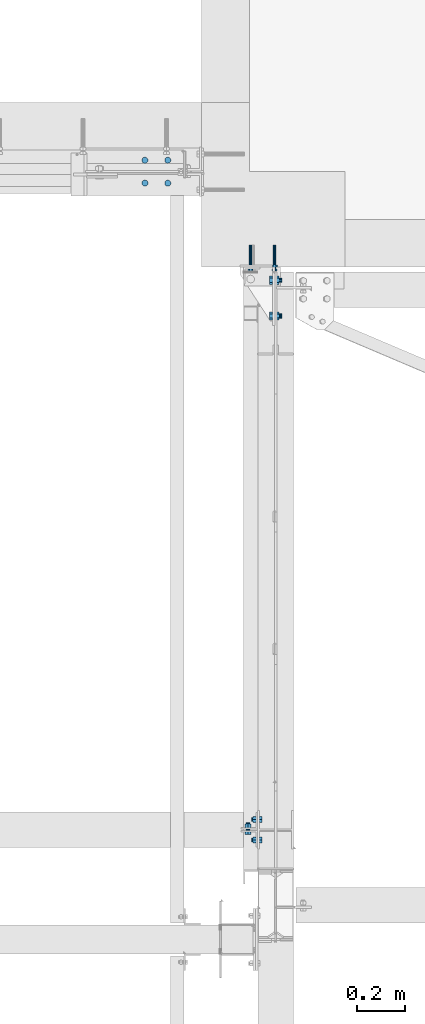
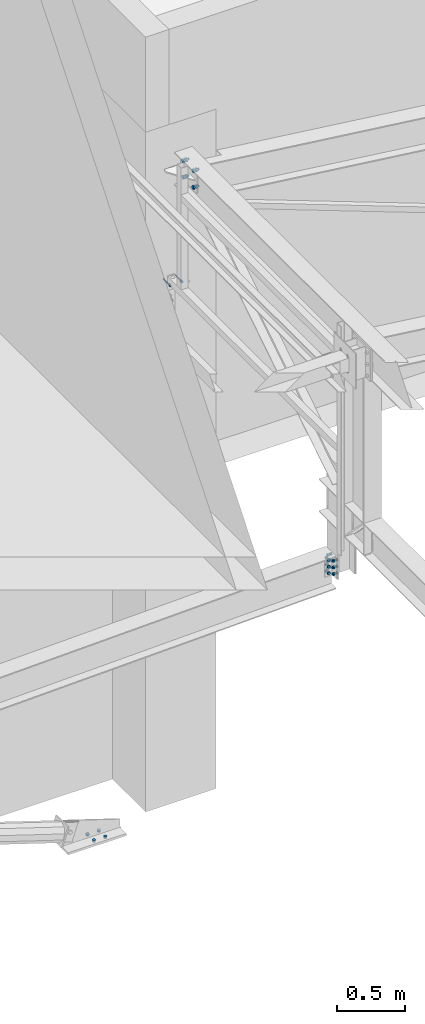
# One storey, part 221 of 3134: 6 mechanical fasteners, 5 elements without a shape of their own.
"""IFC2X3 building model written with IfcOpenShell, lengths in millimetres."""

from ifc_helpers import new_model, si_unit, frame, origin_with_axes, place, context, subcontext, project, spatial, faceted_brep, source, transform, mapped, material, type_object, element, aggregate, save


model = new_model("IFC2X3")

# Units and contexts
model_context = context("Model", 3, precision=1e-05, world=origin_with_axes())
body_context = subcontext(model_context, "Body", "Model", "MODEL_VIEW")
ifc_project = project(units=[si_unit("LENGTHUNIT", "METRE", prefix="MILLI"), si_unit("AREAUNIT", "SQUARE_METRE"), si_unit("VOLUMEUNIT", "CUBIC_METRE"), si_unit("MASSUNIT", "GRAM", prefix="KILO"), si_unit("TIMEUNIT", "SECOND"), si_unit("PLANEANGLEUNIT", "RADIAN"), si_unit("SOLIDANGLEUNIT", "STERADIAN"), si_unit("THERMODYNAMICTEMPERATUREUNIT", "DEGREE_CELSIUS"), si_unit("LUMINOUSINTENSITYUNIT", "LUMEN")], contexts=[model_context])

# Site, building, storey
site_placement = place(None, origin_with_axes())
site = spatial("IfcSite", under=ifc_project, at=site_placement, CompositionType="ELEMENT")
building_placement = place(site_placement, origin_with_axes())
building = spatial("IfcBuilding", under=site, at=building_placement, Name="Undefined", CompositionType="ELEMENT")
storey_placement = place(building_placement, origin_with_axes())
storey = spatial("IfcBuildingStorey", under=building, at=storey_placement, Name="Undefined", CompositionType="ELEMENT", Elevation=0.0)

# Assembly, mechanical fastener
assembly_1_placement = place(storey_placement, origin_with_axes())
assembly_1 = element("IfcElementAssembly", 1, at=assembly_1_placement, inside=storey, AssemblyPlace="NOTDEFINED", PredefinedType="RIGID_FRAME")
ifc_material_1 = material(Name="HILTI-HSA")
mechanical_fastener_type = type_object("IfcMechanicalFastenerType", Name="Bolt assembly")
shared_shape_1 = source(origin_with_axes(), body_context, "Body", "Brep", [
    faceted_brep([(10.3923048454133, -15.92, 0.0), (5.19615242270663, -15.92, 9.0), (-5.19615242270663, -15.92, 9.0), (-10.3923048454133, -15.92, 1.27269028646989e-15), (-5.19615242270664, -15.92, -9.0), (5.19615242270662, -15.92, -9.0), (5.19615242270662, -8.0, -9.0), (-5.19615242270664, -8.0, -9.0), (-10.3923048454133, -8.0, 1.27269028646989e-15), (-5.19615242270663, -8.0, 9.0), (5.19615242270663, -8.0, 9.0), (10.3923048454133, -8.0, 0.0), (6.0, -8.0, 0.0), (5.19615242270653, -8.0, 3.00000000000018), (2.99999999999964, -8.0, 5.19615242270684), (-6.21801588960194e-13, -8.0, 6.0), (-3.00000000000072, -8.0, 5.19615242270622), (-5.19615242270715, -8.0, 2.9999999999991), (-6.0, -8.0, -1.24360317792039e-12), (-5.19615242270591, -8.0, -3.00000000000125), (-2.99999999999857, -8.0, -5.19615242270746), (1.85874342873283e-12, -8.0, -6.0), (3.00000000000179, -8.0, -5.1961524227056), (5.19615242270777, -8.0, -2.99999999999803), (5.19615242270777, 92.0, -2.99999999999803), (3.00000000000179, 92.0, -5.1961524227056), (1.85874342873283e-12, 92.0, -6.0), (-2.99999999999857, 92.0, -5.19615242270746), (-5.19615242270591, 92.0, -3.00000000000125), (-6.0, 92.0, -1.24360317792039e-12), (-5.19615242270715, 92.0, 2.9999999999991), (-3.00000000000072, 92.0, 5.19615242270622), (-6.21801588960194e-13, 92.0, 6.0), (2.99999999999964, 92.0, 5.19615242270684), (5.19615242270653, 92.0, 3.00000000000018), (6.0, 92.0, 0.0), (11.5008173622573, 0.0, 0.0), (5.75040868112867, 0.0, 9.96), (-5.75040868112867, 0.0, 9.96), (-11.5008173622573, 0.0, 1.40844391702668e-15), (-5.75040868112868, 0.0, -9.96), (5.75040868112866, 0.0, -9.96), (5.75040868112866, 7.92, -9.96), (-5.75040868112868, 7.92, -9.96), (-11.5008173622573, 7.92, 1.40844391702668e-15), (-5.75040868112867, 7.92, 9.96), (5.75040868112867, 7.92, 9.96), (11.5008173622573, 7.92, 0.0)], [[[0, 1, 2, 3, 4, 5]], [[6, 7, 8, 9, 10, 11]], [[0, 11, 10, 1]], [[1, 10, 9, 2]], [[2, 9, 8, 3]], [[3, 8, 7, 4]], [[4, 7, 6, 5]], [[5, 6, 11, 0]], [[12, 13, 14, 15, 16, 17, 18, 19, 20, 21, 22, 23]], [[24, 25, 26, 27, 28, 29, 30, 31, 32, 33, 34, 35]], [[12, 35, 34, 13]], [[13, 34, 33, 14]], [[14, 33, 32, 15]], [[15, 32, 31, 16]], [[16, 31, 30, 17]], [[17, 30, 29, 18]], [[18, 29, 28, 19]], [[19, 28, 27, 20]], [[20, 27, 26, 21]], [[21, 26, 25, 22]], [[22, 25, 24, 23]], [[23, 24, 35, 12]], [[36, 37, 38, 39, 40, 41]], [[42, 43, 44, 45, 46, 47]], [[36, 47, 46, 37]], [[37, 46, 45, 38]], [[38, 45, 44, 39]], [[39, 44, 43, 40]], [[40, 43, 42, 41]], [[41, 42, 47, 36]]]),
    faceted_brep([(7.0, -8.0, 0.0), (6.06217782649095, -8.0, 3.50000000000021), (3.49999999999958, -8.0, 6.06217782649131), (-7.25435187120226e-13, -8.0, 7.0), (-3.50000000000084, -8.0, 6.06217782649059), (-6.06217782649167, -8.0, 3.49999999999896), (-7.0, -8.0, -1.45087037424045e-12), (-6.06217782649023, -8.0, -3.50000000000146), (-3.49999999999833, -8.0, -6.06217782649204), (2.1685340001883e-12, -8.0, -7.0), (3.50000000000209, -8.0, -6.06217782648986), (6.0621778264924, -8.0, -3.4999999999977), (6.0621778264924, 0.0999999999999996, -3.4999999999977), (3.50000000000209, 0.0999999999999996, -6.06217782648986), (2.1685340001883e-12, 0.0999999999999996, -7.0), (-3.49999999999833, 0.0999999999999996, -6.06217782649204), (-6.06217782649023, 0.0999999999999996, -3.50000000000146), (-7.0, 0.0999999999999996, -1.45087037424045e-12), (-6.06217782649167, 0.0999999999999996, 3.49999999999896), (-3.50000000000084, 0.0999999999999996, 6.06217782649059), (-7.25435187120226e-13, 0.0999999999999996, 7.0), (3.49999999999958, 0.0999999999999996, 6.06217782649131), (6.06217782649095, 0.0999999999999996, 3.50000000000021), (7.0, 0.0999999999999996, 0.0)], [[[0, 1, 2, 3, 4, 5, 6, 7, 8, 9, 10, 11]], [[12, 13, 14, 15, 16, 17, 18, 19, 20, 21, 22, 23]], [[0, 23, 22, 1]], [[1, 22, 21, 2]], [[2, 21, 20, 3]], [[3, 20, 19, 4]], [[4, 19, 18, 5]], [[5, 18, 17, 6]], [[6, 17, 16, 7]], [[7, 16, 15, 8]], [[8, 15, 14, 9]], [[9, 14, 13, 10]], [[10, 13, 12, 11]], [[11, 12, 23, 0]]]),
])
mechanical_fastener_1_placement = place(assembly_1_placement, frame((20745.0000000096, 48125.0, 4690.0), z_axis=(0.0, 0.0, 1.0), x_axis=(1.0, 0.0, 0.0)))
mechanical_fastener_1 = element("IfcMechanicalFastener", 2, at=mechanical_fastener_1_placement, type_object=mechanical_fastener_type, material=ifc_material_1, Name="Bolt assembly", NominalDiameter=12.0, NominalLength=100.0, context=body_context, shape_type="MappedRepresentation", body=[
    mapped(shared_shape_1, transform((0.0, 0.0, 0.0))),
    mapped(shared_shape_1, transform((100.0, 0.0, 0.0))),
])
aggregate(assembly_1, [mechanical_fastener_1])

assembly_2_placement = place(storey_placement, origin_with_axes())
assembly_2 = element("IfcElementAssembly", 3, at=assembly_2_placement, inside=storey, Name="PL10", AssemblyPlace="NOTDEFINED", PredefinedType="RIGID_FRAME")
ifc_material_2 = material(Name="8.8")
shared_shape_2 = source(origin_with_axes(), body_context, "Body", "Brep", [
    faceted_brep([(17.3205080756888, -23.0, 0.0), (8.66025403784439, -23.0, 15.0), (-8.66025403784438, -23.0, 15.0), (-17.3205080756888, -23.0, 2.12115047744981e-15), (-8.66025403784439, -23.0, -15.0), (8.66025403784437, -23.0, -15.0), (8.66025403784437, -10.0, -15.0), (-8.66025403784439, -10.0, -15.0), (-17.3205080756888, -10.0, 2.12115047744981e-15), (-8.66025403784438, -10.0, 15.0), (8.66025403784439, -10.0, 15.0), (17.3205080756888, -10.0, 0.0), (10.0, -10.0, 0.0), (8.66025403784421, -10.0, 5.0000000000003), (4.9999999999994, -10.0, 8.66025403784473), (-1.03633598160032e-12, -10.0, 10.0), (-5.00000000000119, -10.0, 8.6602540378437), (-8.66025403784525, -10.0, 4.99999999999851), (-10.0, -10.0, -2.07267196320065e-12), (-8.66025403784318, -10.0, -5.00000000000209), (-4.99999999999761, -10.0, -8.66025403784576), (3.09790571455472e-12, -10.0, -10.0), (5.00000000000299, -10.0, -8.66025403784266), (8.66025403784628, -10.0, -4.99999999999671), (8.66025403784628, 30.0, -4.99999999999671), (5.00000000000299, 30.0, -8.66025403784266), (3.09790571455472e-12, 30.0, -10.0), (-4.99999999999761, 30.0, -8.66025403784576), (-8.66025403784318, 30.0, -5.00000000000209), (-10.0, 30.0, -2.07267196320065e-12), (-8.66025403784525, 30.0, 4.99999999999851), (-5.00000000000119, 30.0, 8.6602540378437), (-1.03633598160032e-12, 30.0, 10.0), (4.9999999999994, 30.0, 8.66025403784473), (8.66025403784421, 30.0, 5.0000000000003), (10.0, 30.0, 0.0), (17.3205080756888, 0.0, 0.0), (8.66025403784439, 0.0, 15.0), (-8.66025403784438, 0.0, 15.0), (-17.3205080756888, 0.0, 2.12115047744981e-15), (-8.66025403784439, 0.0, -15.0), (8.66025403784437, 0.0, -15.0), (8.66025403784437, 16.0, -15.0), (-8.66025403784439, 16.0, -15.0), (-17.3205080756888, 16.0, 2.12115047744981e-15), (-8.66025403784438, 16.0, 15.0), (8.66025403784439, 16.0, 15.0), (17.3205080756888, 16.0, 0.0)], [[[0, 1, 2, 3, 4, 5]], [[6, 7, 8, 9, 10, 11]], [[0, 11, 10, 1]], [[1, 10, 9, 2]], [[2, 9, 8, 3]], [[3, 8, 7, 4]], [[4, 7, 6, 5]], [[5, 6, 11, 0]], [[12, 13, 14, 15, 16, 17, 18, 19, 20, 21, 22, 23]], [[24, 25, 26, 27, 28, 29, 30, 31, 32, 33, 34, 35]], [[12, 35, 34, 13]], [[13, 34, 33, 14]], [[14, 33, 32, 15]], [[15, 32, 31, 16]], [[16, 31, 30, 17]], [[17, 30, 29, 18]], [[18, 29, 28, 19]], [[19, 28, 27, 20]], [[20, 27, 26, 21]], [[21, 26, 25, 22]], [[22, 25, 24, 23]], [[23, 24, 35, 12]], [[36, 37, 38, 39, 40, 41]], [[42, 43, 44, 45, 46, 47]], [[36, 47, 46, 37]], [[37, 46, 45, 38]], [[38, 45, 44, 39]], [[39, 44, 43, 40]], [[40, 43, 42, 41]], [[41, 42, 47, 36]]]),
    faceted_brep([(11.0, -10.0, 0.0), (9.52627944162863, -10.0, 5.50000000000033), (5.49999999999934, -10.0, 9.5262794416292), (-1.13996957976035e-12, -10.0, 11.0), (-5.50000000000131, -10.0, 9.52627944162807), (-9.52627944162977, -10.0, 5.49999999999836), (-11.0, -10.0, -2.27993915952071e-12), (-9.5262794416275, -10.0, -5.5000000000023), (-5.49999999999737, -10.0, -9.52627944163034), (3.40769628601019e-12, -10.0, -11.0), (5.50000000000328, -10.0, -9.52627944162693), (9.52627944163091, -10.0, -5.49999999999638), (9.52627944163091, 0.0999999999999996, -5.49999999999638), (5.50000000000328, 0.0999999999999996, -9.52627944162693), (3.40769628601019e-12, 0.0999999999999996, -11.0), (-5.49999999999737, 0.0999999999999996, -9.52627944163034), (-9.5262794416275, 0.0999999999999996, -5.5000000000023), (-11.0, 0.0999999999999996, -2.27993915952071e-12), (-9.52627944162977, 0.0999999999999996, 5.49999999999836), (-5.50000000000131, 0.0999999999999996, 9.52627944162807), (-1.13996957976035e-12, 0.0999999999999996, 11.0), (5.49999999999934, 0.0999999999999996, 9.5262794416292), (9.52627944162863, 0.0999999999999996, 5.50000000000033), (11.0, 0.0999999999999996, 0.0)], [[[0, 1, 2, 3, 4, 5, 6, 7, 8, 9, 10, 11]], [[12, 13, 14, 15, 16, 17, 18, 19, 20, 21, 22, 23]], [[0, 23, 22, 1]], [[1, 22, 21, 2]], [[2, 21, 20, 3]], [[3, 20, 19, 4]], [[4, 19, 18, 5]], [[5, 18, 17, 6]], [[6, 17, 16, 7]], [[7, 16, 15, 8]], [[8, 15, 14, 9]], [[9, 14, 13, 10]], [[10, 13, 12, 11]], [[11, 12, 23, 0]]]),
])
mechanical_fastener_2_placement = place(assembly_2_placement, frame((20846.95, 48070.0000001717, 5741.49999995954), z_axis=(0.0, 0.0, 1.0), x_axis=(0.0, -1.0, 0.0)))
mechanical_fastener_2 = element("IfcMechanicalFastener", 4, at=mechanical_fastener_2_placement, type_object=mechanical_fastener_type, material=ifc_material_2, Name="Bolt assembly", NominalDiameter=20.0, NominalLength=40.0, context=body_context, shape_type="MappedRepresentation", body=[
    mapped(shared_shape_2, transform((0.0, 0.0, -75.0))),
    mapped(shared_shape_2, transform((150.0, 0.0, -75.0))),
    mapped(shared_shape_2, transform((0.0, 0.0, 75.0))),
    mapped(shared_shape_2, transform((150.0, 0.0, 75.0))),
])
aggregate(assembly_2, [mechanical_fastener_2])

assembly_3_placement = place(storey_placement, origin_with_axes())
assembly_3 = element("IfcElementAssembly", 5, at=assembly_3_placement, inside=storey, AssemblyPlace="NOTDEFINED", PredefinedType="RIGID_FRAME")
shared_shape_3 = source(origin_with_axes(), body_context, "Body", "Brep", [
    faceted_brep([(13.0, -19.9999999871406, 0.0), (11.2583302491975, -19.9999999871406, 6.50000000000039), (6.49999999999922, -19.9999999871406, 11.2583302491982), (-1.34723677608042e-12, -19.9999999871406, 13.0), (-6.50000000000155, -19.9999999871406, 11.2583302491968), (-11.2583302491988, -19.9999999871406, 6.49999999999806), (-13.0, -19.9999999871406, -2.69447355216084e-12), (-11.2583302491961, -19.9999999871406, -6.50000000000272), (-6.4999999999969, -19.9999999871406, -11.2583302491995), (4.02727742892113e-12, -19.9999999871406, -13.0), (6.50000000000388, -19.9999999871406, -11.2583302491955), (11.2583302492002, -19.9999999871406, -6.49999999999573), (11.2583302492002, 0.100000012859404, -6.49999999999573), (6.50000000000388, 0.100000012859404, -11.2583302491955), (4.02727742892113e-12, 0.100000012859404, -13.0), (-6.4999999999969, 0.100000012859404, -11.2583302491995), (-11.2583302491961, 0.100000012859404, -6.50000000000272), (-13.0, 0.100000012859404, -2.69447355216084e-12), (-11.2583302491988, 0.100000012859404, 6.49999999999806), (-6.50000000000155, 0.100000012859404, 11.2583302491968), (-1.34723677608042e-12, 0.100000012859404, 13.0), (6.49999999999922, 0.100000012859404, 11.2583302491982), (11.2583302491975, 0.100000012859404, 6.50000000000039), (13.0, 0.100000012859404, 0.0)], [[[0, 1, 2, 3, 4, 5, 6, 7, 8, 9, 10, 11]], [[12, 13, 14, 15, 16, 17, 18, 19, 20, 21, 22, 23]], [[0, 23, 22, 1]], [[1, 22, 21, 2]], [[2, 21, 20, 3]], [[3, 20, 19, 4]], [[4, 19, 18, 5]], [[5, 18, 17, 6]], [[6, 17, 16, 7]], [[7, 16, 15, 8]], [[8, 15, 14, 9]], [[9, 14, 13, 10]], [[10, 13, 12, 11]], [[11, 12, 23, 0]]]),
])
mechanical_fastener_3_placement = place(assembly_3_placement, frame((20302.0000000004, 48525.0, -400.000000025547), z_axis=(0.0, 1.0, 0.0), x_axis=(1.0, 0.0, 0.0)))
mechanical_fastener_3 = element("IfcMechanicalFastener", 6, at=mechanical_fastener_3_placement, type_object=mechanical_fastener_type, material=ifc_material_2, Name="Bolt assembly", NominalDiameter=24.0, NominalLength=20.0, context=body_context, shape_type="MappedRepresentation", body=[
    mapped(shared_shape_3, transform((0.0, 0.0, -48.0))),
    mapped(shared_shape_3, transform((96.0, 0.0, -48.0))),
    mapped(shared_shape_3, transform((0.0, 0.0, 48.0))),
    mapped(shared_shape_3, transform((96.0, 0.0, 48.0))),
])
aggregate(assembly_3, [mechanical_fastener_3])

assembly_4_placement = place(storey_placement, origin_with_axes())
assembly_4 = element("IfcElementAssembly", 7, at=assembly_4_placement, inside=storey, AssemblyPlace="NOTDEFINED", PredefinedType="RIGID_FRAME")
shared_shape_4 = source(origin_with_axes(), body_context, "Body", "Brep", [
    faceted_brep([(13.856406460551, -20.0400000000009, 0.0), (6.92820323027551, -20.0400000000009, 12.0), (-6.92820323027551, -20.0400000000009, 12.0), (-13.856406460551, -20.0400000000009, 1.69692038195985e-15), (-6.92820323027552, -20.0400000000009, -12.0), (6.9282032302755, -20.0400000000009, -12.0), (6.9282032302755, -10.0400000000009, -12.0), (-6.92820323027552, -10.0400000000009, -12.0), (-13.856406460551, -10.0400000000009, 1.69692038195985e-15), (-6.92820323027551, -10.0400000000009, 12.0), (6.92820323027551, -10.0400000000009, 12.0), (13.856406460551, -10.0400000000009, 0.0), (8.0, -10.0400000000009, 0.0), (6.92820323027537, -10.0400000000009, 4.00000000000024), (3.99999999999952, -10.0400000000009, 6.92820323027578), (-8.29068785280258e-13, -10.0400000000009, 8.0), (-4.00000000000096, -10.0400000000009, 6.92820323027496), (-6.9282032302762, -10.0400000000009, 3.99999999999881), (-8.0, -10.0400000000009, -1.65813757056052e-12), (-6.92820323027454, -10.0400000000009, -4.00000000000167), (-3.99999999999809, -10.0400000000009, -6.92820323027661), (2.47832457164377e-12, -10.0400000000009, -8.0), (4.00000000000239, -10.0400000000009, -6.92820323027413), (6.92820323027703, -10.0400000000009, -3.99999999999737), (6.92820323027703, 29.9599999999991, -3.99999999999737), (4.00000000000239, 29.9599999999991, -6.92820323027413), (2.47832457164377e-12, 29.9599999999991, -8.0), (-3.99999999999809, 29.9599999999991, -6.92820323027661), (-6.92820323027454, 29.9599999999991, -4.00000000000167), (-8.0, 29.9599999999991, -1.65813757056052e-12), (-6.9282032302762, 29.9599999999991, 3.99999999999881), (-4.00000000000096, 29.9599999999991, 6.92820323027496), (-8.29068785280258e-13, 29.9599999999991, 8.0), (3.99999999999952, 29.9599999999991, 6.92820323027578), (6.92820323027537, 29.9599999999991, 4.00000000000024), (8.0, 29.9599999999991, 0.0), (13.856406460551, 10.0400000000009, 0.0), (6.92820323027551, 10.0400000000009, 12.0), (-6.92820323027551, 10.0400000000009, 12.0), (-13.856406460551, 10.0400000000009, 1.69692038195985e-15), (-6.92820323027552, 10.0400000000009, -12.0), (6.9282032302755, 10.0400000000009, -12.0), (6.9282032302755, 23.0400000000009, -12.0), (-6.92820323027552, 23.0400000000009, -12.0), (-13.856406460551, 23.0400000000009, 1.69692038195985e-15), (-6.92820323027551, 23.0400000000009, 12.0), (6.92820323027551, 23.0400000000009, 12.0), (13.856406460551, 23.0400000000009, 0.0)], [[[0, 1, 2, 3, 4, 5]], [[6, 7, 8, 9, 10, 11]], [[0, 11, 10, 1]], [[1, 10, 9, 2]], [[2, 9, 8, 3]], [[3, 8, 7, 4]], [[4, 7, 6, 5]], [[5, 6, 11, 0]], [[12, 13, 14, 15, 16, 17, 18, 19, 20, 21, 22, 23]], [[24, 25, 26, 27, 28, 29, 30, 31, 32, 33, 34, 35]], [[12, 35, 34, 13]], [[13, 34, 33, 14]], [[14, 33, 32, 15]], [[15, 32, 31, 16]], [[16, 31, 30, 17]], [[17, 30, 29, 18]], [[18, 29, 28, 19]], [[19, 28, 27, 20]], [[20, 27, 26, 21]], [[21, 26, 25, 22]], [[22, 25, 24, 23]], [[23, 24, 35, 12]], [[36, 37, 38, 39, 40, 41]], [[42, 43, 44, 45, 46, 47]], [[36, 47, 46, 37]], [[37, 46, 45, 38]], [[38, 45, 44, 39]], [[39, 44, 43, 40]], [[40, 43, 42, 41]], [[41, 42, 47, 36]]]),
    faceted_brep([(9.0, -3.04999995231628, 0.0), (7.79422863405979, -3.04999995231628, 4.50000000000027), (4.49999999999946, -3.04999995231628, 7.79422863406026), (-9.3270238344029e-13, -3.04999995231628, 9.0), (-4.50000000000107, -3.04999995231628, 7.79422863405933), (-7.79422863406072, -3.04999995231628, 4.49999999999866), (-9.0, -3.04999995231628, -1.86540476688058e-12), (-7.79422863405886, -3.04999995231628, -4.50000000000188), (-4.49999999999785, -3.04999995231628, -7.79422863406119), (2.78811514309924e-12, -3.04999995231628, -9.0), (4.50000000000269, -3.04999995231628, -7.7942286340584), (7.79422863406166, -3.04999995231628, -4.49999999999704), (7.79422863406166, 3.04999995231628, -4.49999999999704), (4.50000000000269, 3.04999995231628, -7.7942286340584), (2.78811514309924e-12, 3.04999995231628, -9.0), (-4.49999999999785, 3.04999995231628, -7.79422863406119), (-7.79422863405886, 3.04999995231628, -4.50000000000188), (-9.0, 3.04999995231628, -1.86540476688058e-12), (-7.79422863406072, 3.04999995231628, 4.49999999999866), (-4.50000000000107, 3.04999995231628, 7.79422863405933), (-9.3270238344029e-13, 3.04999995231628, 9.0), (4.49999999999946, 3.04999995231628, 7.79422863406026), (7.79422863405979, 3.04999995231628, 4.50000000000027), (9.0, 3.04999995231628, 0.0), (9.0, -9.94000000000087, 0.0), (7.79422863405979, -9.94000000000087, 4.50000000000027), (4.49999999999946, -9.94000000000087, 7.79422863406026), (-9.3270238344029e-13, -9.94000000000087, 9.0), (-4.50000000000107, -9.94000000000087, 7.79422863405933), (-7.79422863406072, -9.94000000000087, 4.49999999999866), (-9.0, -9.94000000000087, -1.86540476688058e-12), (-7.79422863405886, -9.94000000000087, -4.50000000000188), (-4.49999999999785, -9.94000000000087, -7.79422863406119), (2.78811514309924e-12, -9.94000000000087, -9.0), (4.50000000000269, -9.94000000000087, -7.7942286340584), (7.79422863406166, -9.94000000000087, -4.49999999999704), (7.79422863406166, -2.94000000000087, -4.49999999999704), (4.50000000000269, -2.94000000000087, -7.7942286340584), (2.78811514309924e-12, -2.94000000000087, -9.0), (-4.49999999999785, -2.94000000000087, -7.79422863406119), (-7.79422863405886, -2.94000000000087, -4.50000000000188), (-9.0, -2.94000000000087, -1.86540476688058e-12), (-7.79422863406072, -2.94000000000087, 4.49999999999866), (-4.50000000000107, -2.94000000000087, 7.79422863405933), (-9.3270238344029e-13, -2.94000000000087, 9.0), (4.49999999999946, -2.94000000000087, 7.79422863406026), (7.79422863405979, -2.94000000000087, 4.50000000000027), (9.0, -2.94000000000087, 0.0), (9.0, 2.94000000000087, 0.0), (7.79422863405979, 2.94000000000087, 4.50000000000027), (4.49999999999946, 2.94000000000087, 7.79422863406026), (-9.3270238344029e-13, 2.94000000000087, 9.0), (-4.50000000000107, 2.94000000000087, 7.79422863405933), (-7.79422863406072, 2.94000000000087, 4.49999999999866), (-9.0, 2.94000000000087, -1.86540476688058e-12), (-7.79422863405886, 2.94000000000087, -4.50000000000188), (-4.49999999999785, 2.94000000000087, -7.79422863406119), (2.78811514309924e-12, 2.94000000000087, -9.0), (4.50000000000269, 2.94000000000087, -7.7942286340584), (7.79422863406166, 2.94000000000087, -4.49999999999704), (7.79422863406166, 10.0400000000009, -4.49999999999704), (4.50000000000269, 10.0400000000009, -7.7942286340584), (2.78811514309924e-12, 10.0400000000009, -9.0), (-4.49999999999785, 10.0400000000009, -7.79422863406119), (-7.79422863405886, 10.0400000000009, -4.50000000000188), (-9.0, 10.0400000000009, -1.86540476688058e-12), (-7.79422863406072, 10.0400000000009, 4.49999999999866), (-4.50000000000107, 10.0400000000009, 7.79422863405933), (-9.3270238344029e-13, 10.0400000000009, 9.0), (4.49999999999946, 10.0400000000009, 7.79422863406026), (7.79422863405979, 10.0400000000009, 4.50000000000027), (9.0, 10.0400000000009, 0.0)], [[[0, 1, 2, 3, 4, 5, 6, 7, 8, 9, 10, 11]], [[12, 13, 14, 15, 16, 17, 18, 19, 20, 21, 22, 23]], [[0, 23, 22, 1]], [[1, 22, 21, 2]], [[2, 21, 20, 3]], [[3, 20, 19, 4]], [[4, 19, 18, 5]], [[5, 18, 17, 6]], [[6, 17, 16, 7]], [[7, 16, 15, 8]], [[8, 15, 14, 9]], [[9, 14, 13, 10]], [[10, 13, 12, 11]], [[11, 12, 23, 0]], [[24, 25, 26, 27, 28, 29, 30, 31, 32, 33, 34, 35]], [[36, 37, 38, 39, 40, 41, 42, 43, 44, 45, 46, 47]], [[24, 47, 46, 25]], [[25, 46, 45, 26]], [[26, 45, 44, 27]], [[27, 44, 43, 28]], [[28, 43, 42, 29]], [[29, 42, 41, 30]], [[30, 41, 40, 31]], [[31, 40, 39, 32]], [[32, 39, 38, 33]], [[33, 38, 37, 34]], [[34, 37, 36, 35]], [[35, 36, 47, 24]], [[48, 49, 50, 51, 52, 53, 54, 55, 56, 57, 58, 59]], [[60, 61, 62, 63, 64, 65, 66, 67, 68, 69, 70, 71]], [[48, 71, 70, 49]], [[49, 70, 69, 50]], [[50, 69, 68, 51]], [[51, 68, 67, 52]], [[52, 67, 66, 53]], [[53, 66, 65, 54]], [[54, 65, 64, 55]], [[55, 64, 63, 56]], [[56, 63, 62, 57]], [[57, 62, 61, 58]], [[58, 61, 60, 59]], [[59, 60, 71, 48]]]),
])
mechanical_fastener_4_placement = place(assembly_4_placement, frame((20734.0000000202, 45766.67, 3648.83272487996), z_axis=(1.0, 0.0, 0.0), x_axis=(0.0, 0.0, -1.0)))
mechanical_fastener_4 = element("IfcMechanicalFastener", 8, at=mechanical_fastener_4_placement, type_object=mechanical_fastener_type, material=ifc_material_2, Name="Bolt assembly", NominalDiameter=16.0, NominalLength=40.0, context=body_context, shape_type="MappedRepresentation", body=[
    mapped(shared_shape_4, transform((0.0, 0.0, 0.0))),
    mapped(shared_shape_4, transform((59.9999999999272, 0.0, 5.40239852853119e-10))),
    mapped(shared_shape_4, transform((120.0, 0.0, 0.0))),
])

assembly_5_placement = place(storey_placement, origin_with_axes())
assembly_5 = element("IfcElementAssembly", 9, at=assembly_5_placement, inside=storey, AssemblyPlace="NOTDEFINED", PredefinedType="RIGID_FRAME")
shared_shape_5 = source(origin_with_axes(), body_context, "Body", "Brep", [
    faceted_brep([(13.856406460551, -19.0, 0.0), (6.92820323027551, -19.0, 12.0), (-6.92820323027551, -19.0, 12.0), (-13.856406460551, -19.0, 1.69692038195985e-15), (-6.92820323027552, -19.0, -12.0), (6.9282032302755, -19.0, -12.0), (6.9282032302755, -9.0, -12.0), (-6.92820323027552, -9.0, -12.0), (-13.856406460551, -9.0, 1.69692038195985e-15), (-6.92820323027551, -9.0, 12.0), (6.92820323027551, -9.0, 12.0), (13.856406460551, -9.0, 0.0), (8.0, -9.0, 0.0), (6.92820323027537, -9.0, 4.00000000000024), (3.99999999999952, -9.0, 6.92820323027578), (-8.29068785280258e-13, -9.0, 8.0), (-4.00000000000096, -9.0, 6.92820323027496), (-6.9282032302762, -9.0, 3.99999999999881), (-8.0, -9.0, -1.65813757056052e-12), (-6.92820323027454, -9.0, -4.00000000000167), (-3.99999999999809, -9.0, -6.92820323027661), (2.47832457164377e-12, -9.0, -8.0), (4.00000000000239, -9.0, -6.92820323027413), (6.92820323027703, -9.0, -3.99999999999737), (6.92820323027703, 26.0, -3.99999999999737), (4.00000000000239, 26.0, -6.92820323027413), (2.47832457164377e-12, 26.0, -8.0), (-3.99999999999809, 26.0, -6.92820323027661), (-6.92820323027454, 26.0, -4.00000000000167), (-8.0, 26.0, -1.65813757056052e-12), (-6.9282032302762, 26.0, 3.99999999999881), (-4.00000000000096, 26.0, 6.92820323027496), (-8.29068785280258e-13, 26.0, 8.0), (3.99999999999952, 26.0, 6.92820323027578), (6.92820323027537, 26.0, 4.00000000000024), (8.0, 26.0, 0.0), (13.856406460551, 7.0, 0.0), (6.92820323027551, 7.0, 12.0), (-6.92820323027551, 7.0, 12.0), (-13.856406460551, 7.0, 1.69692038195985e-15), (-6.92820323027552, 7.0, -12.0), (6.9282032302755, 7.0, -12.0), (6.9282032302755, 20.0, -12.0), (-6.92820323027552, 20.0, -12.0), (-13.856406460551, 20.0, 1.69692038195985e-15), (-6.92820323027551, 20.0, 12.0), (6.92820323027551, 20.0, 12.0), (13.856406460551, 20.0, 0.0)], [[[0, 1, 2, 3, 4, 5]], [[6, 7, 8, 9, 10, 11]], [[0, 11, 10, 1]], [[1, 10, 9, 2]], [[2, 9, 8, 3]], [[3, 8, 7, 4]], [[4, 7, 6, 5]], [[5, 6, 11, 0]], [[12, 13, 14, 15, 16, 17, 18, 19, 20, 21, 22, 23]], [[24, 25, 26, 27, 28, 29, 30, 31, 32, 33, 34, 35]], [[12, 35, 34, 13]], [[13, 34, 33, 14]], [[14, 33, 32, 15]], [[15, 32, 31, 16]], [[16, 31, 30, 17]], [[17, 30, 29, 18]], [[18, 29, 28, 19]], [[19, 28, 27, 20]], [[20, 27, 26, 21]], [[21, 26, 25, 22]], [[22, 25, 24, 23]], [[23, 24, 35, 12]], [[36, 37, 38, 39, 40, 41]], [[42, 43, 44, 45, 46, 47]], [[36, 47, 46, 37]], [[37, 46, 45, 38]], [[38, 45, 44, 39]], [[39, 44, 43, 40]], [[40, 43, 42, 41]], [[41, 42, 47, 36]]]),
    faceted_brep([(9.0, -8.9, 0.0), (7.79422863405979, -8.9, 4.50000000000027), (4.49999999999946, -8.9, 7.79422863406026), (-9.3270238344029e-13, -8.9, 9.0), (-4.50000000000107, -8.9, 7.79422863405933), (-7.79422863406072, -8.9, 4.49999999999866), (-9.0, -8.9, -1.86540476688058e-12), (-7.79422863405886, -8.9, -4.50000000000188), (-4.49999999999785, -8.9, -7.79422863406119), (2.78811514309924e-12, -8.9, -9.0), (4.50000000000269, -8.9, -7.7942286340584), (7.79422863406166, -8.9, -4.49999999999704), (7.79422863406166, 0.100000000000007, -4.49999999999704), (4.50000000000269, 0.100000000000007, -7.7942286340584), (2.78811514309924e-12, 0.100000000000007, -9.0), (-4.49999999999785, 0.100000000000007, -7.79422863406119), (-7.79422863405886, 0.100000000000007, -4.50000000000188), (-9.0, 0.100000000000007, -1.86540476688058e-12), (-7.79422863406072, 0.100000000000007, 4.49999999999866), (-4.50000000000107, 0.100000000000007, 7.79422863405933), (-9.3270238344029e-13, 0.100000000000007, 9.0), (4.49999999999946, 0.100000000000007, 7.79422863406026), (7.79422863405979, 0.100000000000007, 4.50000000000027), (9.0, 0.100000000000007, 0.0), (9.0, -0.1, 0.0), (7.79422863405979, -0.1, 4.50000000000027), (4.49999999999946, -0.1, 7.79422863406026), (-9.3270238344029e-13, -0.1, 9.0), (-4.50000000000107, -0.1, 7.79422863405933), (-7.79422863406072, -0.1, 4.49999999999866), (-9.0, -0.1, -1.86540476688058e-12), (-7.79422863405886, -0.1, -4.50000000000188), (-4.49999999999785, -0.1, -7.79422863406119), (2.78811514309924e-12, -0.1, -9.0), (4.50000000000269, -0.1, -7.7942286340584), (7.79422863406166, -0.1, -4.49999999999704), (7.79422863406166, 7.0, -4.49999999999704), (4.50000000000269, 7.0, -7.7942286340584), (2.78811514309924e-12, 7.0, -9.0), (-4.49999999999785, 7.0, -7.79422863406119), (-7.79422863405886, 7.0, -4.50000000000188), (-9.0, 7.0, -1.86540476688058e-12), (-7.79422863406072, 7.0, 4.49999999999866), (-4.50000000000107, 7.0, 7.79422863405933), (-9.3270238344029e-13, 7.0, 9.0), (4.49999999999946, 7.0, 7.79422863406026), (7.79422863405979, 7.0, 4.50000000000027), (9.0, 7.0, 0.0)], [[[0, 1, 2, 3, 4, 5, 6, 7, 8, 9, 10, 11]], [[12, 13, 14, 15, 16, 17, 18, 19, 20, 21, 22, 23]], [[0, 23, 22, 1]], [[1, 22, 21, 2]], [[2, 21, 20, 3]], [[3, 20, 19, 4]], [[4, 19, 18, 5]], [[5, 18, 17, 6]], [[6, 17, 16, 7]], [[7, 16, 15, 8]], [[8, 15, 14, 9]], [[9, 14, 13, 10]], [[10, 13, 12, 11]], [[11, 12, 23, 0]], [[24, 25, 26, 27, 28, 29, 30, 31, 32, 33, 34, 35]], [[36, 37, 38, 39, 40, 41, 42, 43, 44, 45, 46, 47]], [[24, 47, 46, 25]], [[25, 46, 45, 26]], [[26, 45, 44, 27]], [[27, 44, 43, 28]], [[28, 43, 42, 29]], [[29, 42, 41, 30]], [[30, 41, 40, 31]], [[31, 40, 39, 32]], [[32, 39, 38, 33]], [[33, 38, 37, 34]], [[34, 37, 36, 35]], [[35, 36, 47, 24]]]),
])
mechanical_fastener_5_placement = place(assembly_5_placement, frame((20774.0000000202, 45809.71, 3648.83272487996), z_axis=(0.0, 1.0, 0.0), x_axis=(0.0, 0.0, -1.0)))
mechanical_fastener_5 = element("IfcMechanicalFastener", 10, at=mechanical_fastener_5_placement, type_object=mechanical_fastener_type, material=ifc_material_2, Name="Bolt assembly", NominalDiameter=16.0, NominalLength=35.0, context=body_context, shape_type="MappedRepresentation", body=[
    mapped(shared_shape_5, transform((0.0, 0.0, 0.0))),
    mapped(shared_shape_5, transform((59.9999999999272, 0.0, 5.40239852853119e-10))),
    mapped(shared_shape_5, transform((120.0, 0.0, 0.0))),
])
aggregate(assembly_5, [mechanical_fastener_5])

# Mechanical fastener
mechanical_fastener_6_placement = place(assembly_4_placement, frame((20774.0000000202, 45723.63, 3648.83272487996), z_axis=(0.0, 1.0, 0.0), x_axis=(0.0, 0.0, -1.0)))
mechanical_fastener_6 = element("IfcMechanicalFastener", 11, at=mechanical_fastener_6_placement, type_object=mechanical_fastener_type, material=ifc_material_2, Name="Bolt assembly", NominalDiameter=16.0, NominalLength=35.0, context=body_context, shape_type="MappedRepresentation", body=[
    mapped(shared_shape_5, transform((0.0, 0.0, 0.0))),
    mapped(shared_shape_5, transform((59.9999999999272, 0.0, 5.40239852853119e-10))),
    mapped(shared_shape_5, transform((120.0, 0.0, 0.0))),
])

aggregate(assembly_4, [mechanical_fastener_4, mechanical_fastener_6])

save(model, "model.ifc")
